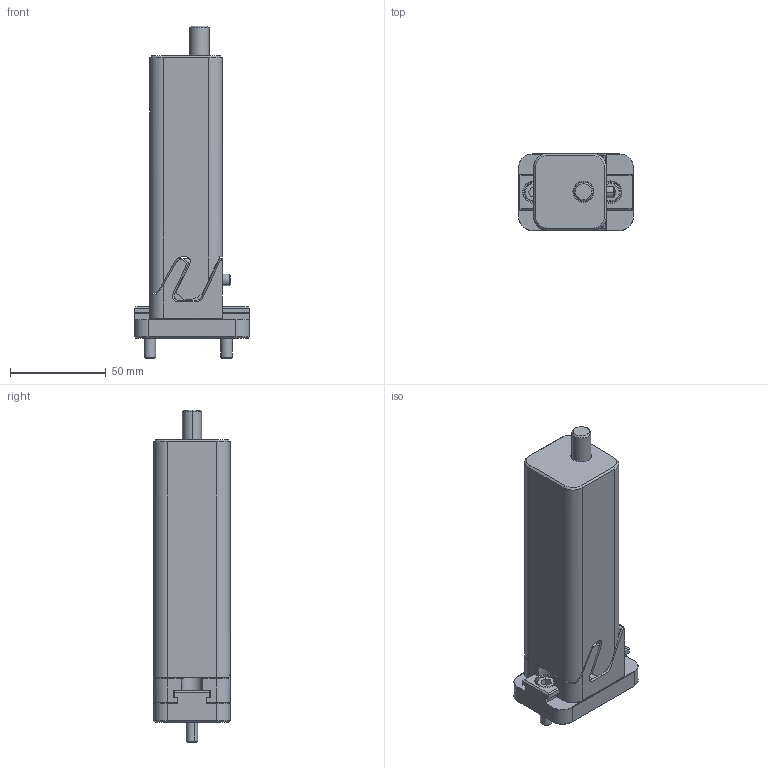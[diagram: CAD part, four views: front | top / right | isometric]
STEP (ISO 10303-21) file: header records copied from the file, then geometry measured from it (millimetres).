
FILE_DESCRIPTION (( 'STEP AP203' ), '1' );
FILE_NAME ('CAMM-300L.STEP', '2011-01-19T19:54:58', ( '' ), ( '' ), 'SwSTEP 2.0', 'SolidWorks 2008', '' );
FILE_SCHEMA (( 'CONFIG_CONTROL_DESIGN' ));
Length unit declared in the file: millimetre
Products named in the file (13): SRTM-04; CAMM-300L; SRTM-04_Body; SRTM-04_WAVESPRING; SHCS_M10X20; SHCS_M6X22; CAMM-300-G_GUIDE; CAMM-300-S_SLIDE; CAMM-300-LK37_LOCK; SRTM-04_AXLE; SRTM-04_ROLLER; SRTM-04_SHSB; SHCS_M6X20
Assembly tree (14 placements, depth 3):
  CAMM-300L
    SHCS_M10X20
    SHCS_M6X22
    CAMM-300-S_SLIDE
    SHCS_M6X20  x2
    CAMM-300-G_GUIDE
    CAMM-300-LK37_LOCK
    SRTM-04
      SRTM-04_ROLLER
      SRTM-04_SHSB  x2
      SRTM-04_Body
      SRTM-04_WAVESPRING
      SRTM-04_AXLE
Bounding box: 60 x 40 x 173.3 mm (x, y, z)
Volume: 224542.3 mm3; surface area: 50470.6 mm2
Topology: 13 solids, 13 shells, 606 faces, 1526 edges, 954 vertices
Faces by surface type: plane 287, cylinder 185, cone 112, torus 16, bspline 6
Entity records: 18693 total; most frequent: CARTESIAN_POINT 4077, ORIENTED_EDGE 2844, DIRECTION 2660, EDGE_CURVE 1422, AXIS2_PLACEMENT_3D 933, VERTEX_POINT 890, VECTOR 794, LINE 794
